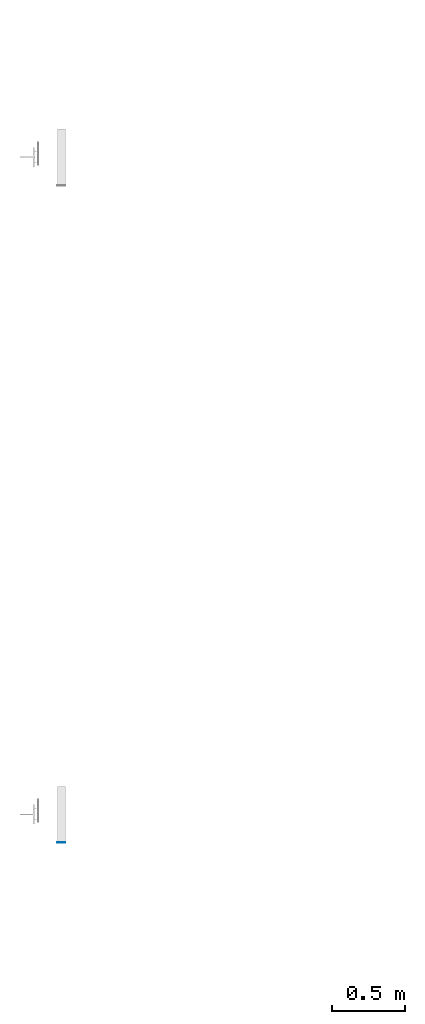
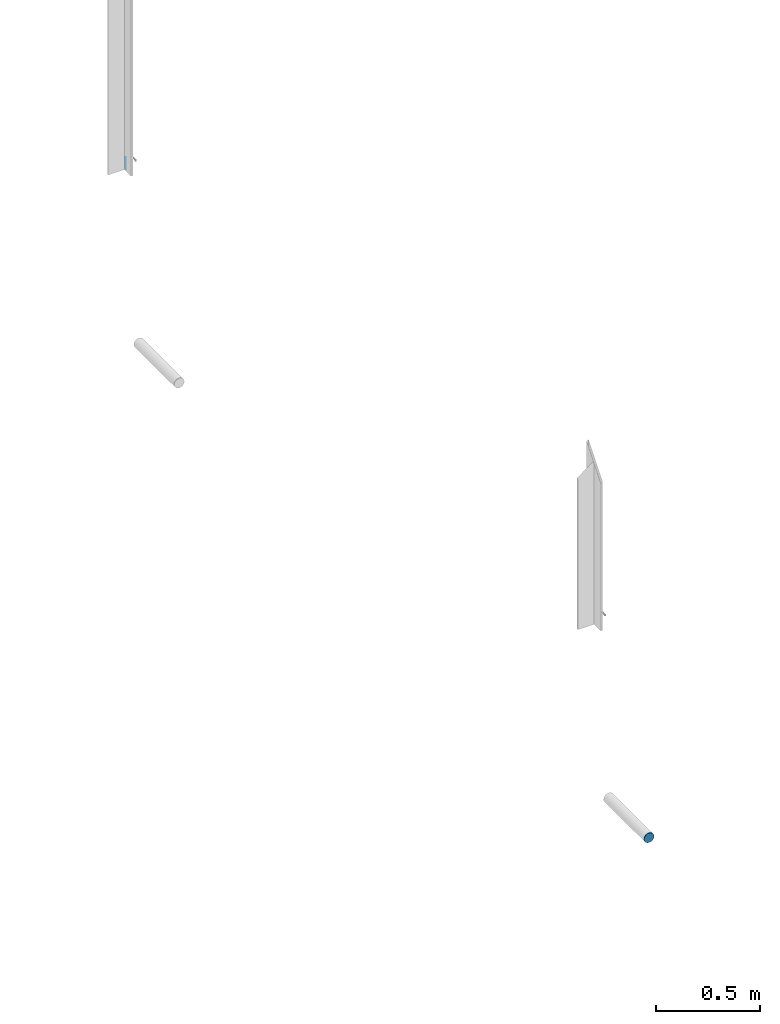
# One storey, part 74 of 186: 2 beams.
"""IFC4X3_ADD2 building model written with IfcOpenShell, lengths in millimetres."""

from ifc_helpers import new_model, si_unit, direction, frame, frame_2d, origin_with_axes, place, context, subcontext, project, spatial, indexed_curve, rectangle, outline, extrude, material, element, save


model = new_model("IFC4X3_ADD2")

# Units and contexts
model_context = context("Model", 3, precision=1e-05, world=origin_with_axes(), true_north=direction((0.0, 1.0)))
body_context = subcontext(model_context, "Body", "Model", "MODEL_VIEW")
ifc_project = project(units=[si_unit("LENGTHUNIT", "METRE", prefix="MILLI"), si_unit("AREAUNIT", "SQUARE_METRE"), si_unit("VOLUMEUNIT", "CUBIC_METRE"), si_unit("PLANEANGLEUNIT", "RADIAN"), si_unit("TIMEUNIT", "SECOND"), si_unit("MASSUNIT", "GRAM")], contexts=[model_context])

# Site, building, storey
site_placement = place(None, origin_with_axes())
site = spatial("IfcSite", under=ifc_project, at=site_placement, Name="Site", CompositionType="ELEMENT")
building_placement = place(site_placement, origin_with_axes())
building = spatial("IfcBuilding", under=site, at=building_placement, Name="IFC Building Story")
storey_placement = place(building_placement, frame((0.0, 0.0, 4370.0), z_axis=(0.0, 0.0, 1.0), x_axis=(1.0, 0.0, 0.0)))
storey = spatial("IfcBuildingStorey", under=building, at=storey_placement, Name="ETAGE 10 (1)", Elevation=4370.0)

# Beams
ifc_material_1 = material(Name="STEEL/Accessory_invisible")
beam_1_placement = place(storey_placement, frame((4778.58977737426, 8999.999725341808, 3822.0), z_axis=(-1.0, 0.0, 0.0), x_axis=(0.0, 0.0, 1.0)))
element("IfcBeam", 1, at=beam_1_placement, inside=storey, material=ifc_material_1, Name="ZW1", ObjectType="1*1 10", context=body_context, shape_type="SweptSolid", body=[
    extrude(rectangle(XDim=70.0000000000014, YDim=1.0, at=frame_2d((0.0, 5.95523630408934e-12), x_axis=(1.0, 0.0))), origin_with_axes(), (0.0, 0.0, 1.0), 1.0),
])
ifc_material_2 = material(Name="STEEL/Accessory 22919")
beam_2_placement = place(storey_placement, frame((4961.18977737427, 4308.000202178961, 2660.779999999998), z_axis=(0.0, -1.0, 0.0), x_axis=(-0.1950903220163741, 0.0, 0.9807852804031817)))
element("IfcBeam", 2, at=beam_2_placement, inside=storey, material=ifc_material_2, Name="TA4", ObjectType="D56", context=body_context, shape_type="SweptSolid", body=[
    extrude(outline(indexed_curve([(23.28114914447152, 15.55596652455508), (27.46198785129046, 5.462529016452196), (27.46198785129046, -5.462529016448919), (23.28114914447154, -15.55596652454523), (15.55596652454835, -23.28114914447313), (5.462529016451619, -27.46198785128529), (-5.462529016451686, -27.46198785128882), (-15.55596652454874, -23.28114914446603), (-23.2811491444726, -15.55596652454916), (-27.46198785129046, -5.462529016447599), (-27.46198785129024, 5.462529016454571), (-23.28114914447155, 15.55596652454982), (-15.55596652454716, 23.28114914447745), (-5.462529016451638, 27.46198785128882), (5.462529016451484, 27.46198785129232), (15.55596652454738, 23.28114914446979), (23.28114914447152, 15.55596652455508)])), origin_with_axes(), (0.0, 0.0, 1.0), 3.0),
])

save(model, "model.ifc")
